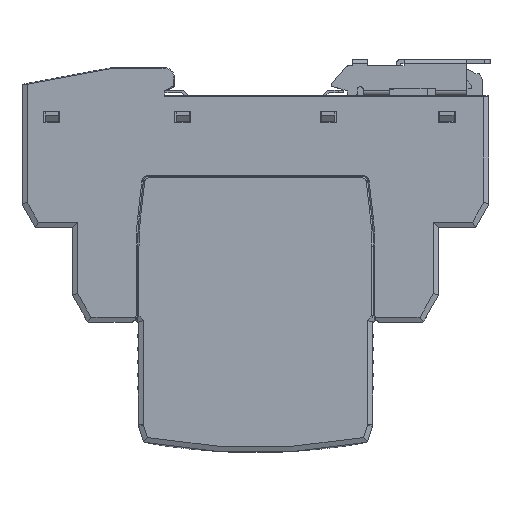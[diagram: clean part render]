
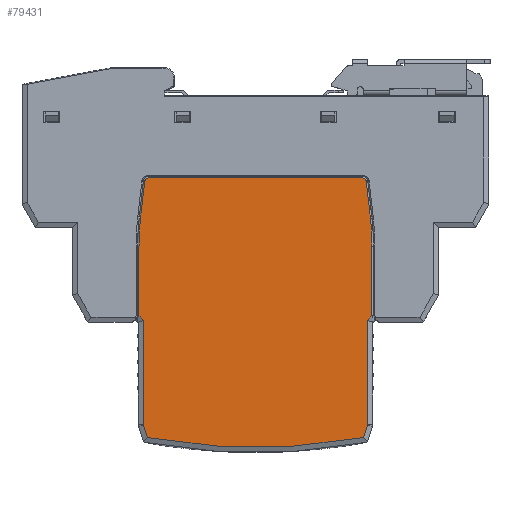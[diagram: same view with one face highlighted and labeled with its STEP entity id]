
A CAD part, top view. The second image highlights one B-rep face of the part: STEP entity #79431.
In plain terms, the highlighted planar face has unit normal (0, 0, 1).
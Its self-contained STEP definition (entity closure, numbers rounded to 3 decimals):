
#1640=CIRCLE('',#83899,0.5);
#1760=CIRCLE('',#84139,0.7);
#1764=CIRCLE('',#84145,0.7);
#1770=CIRCLE('',#84158,49.65);
#1772=CIRCLE('',#84165,0.5);
#1787=CIRCLE('',#84209,114.492);
#1788=CIRCLE('',#84211,49.65);
#6225=ORIENTED_EDGE('',*,*,#29698,.F.);
#6226=ORIENTED_EDGE('',*,*,#29695,.T.);
#6227=ORIENTED_EDGE('',*,*,#30105,.F.);
#6228=ORIENTED_EDGE('',*,*,#30106,.F.);
#6229=ORIENTED_EDGE('',*,*,#30107,.F.);
#6230=ORIENTED_EDGE('',*,*,#30108,.T.);
#6231=ORIENTED_EDGE('',*,*,#30027,.T.);
#6232=ORIENTED_EDGE('',*,*,#30030,.T.);
#6233=ORIENTED_EDGE('',*,*,#30033,.F.);
#6234=ORIENTED_EDGE('',*,*,#30036,.T.);
#6235=ORIENTED_EDGE('',*,*,#30039,.T.);
#6236=ORIENTED_EDGE('',*,*,#30051,.T.);
#6237=ORIENTED_EDGE('',*,*,#30053,.F.);
#6238=ORIENTED_EDGE('',*,*,#30055,.F.);
#6239=ORIENTED_EDGE('',*,*,#30058,.F.);
#6240=ORIENTED_EDGE('',*,*,#30060,.T.);
#6241=ORIENTED_EDGE('',*,*,#29807,.F.);
#6242=ORIENTED_EDGE('',*,*,#30104,.T.);
#29695=EDGE_CURVE('',#41826,#41827,#1640,.T.);
#29698=EDGE_CURVE('',#41826,#41828,#50096,.T.);
#29807=EDGE_CURVE('',#41904,#41905,#50145,.T.);
#30027=EDGE_CURVE('',#42055,#42054,#50271,.T.);
#30030=EDGE_CURVE('',#42054,#42056,#1760,.T.);
#30033=EDGE_CURVE('',#42058,#42056,#50273,.T.);
#30036=EDGE_CURVE('',#42058,#42060,#1764,.T.);
#30039=EDGE_CURVE('',#42060,#42062,#50275,.T.);
#30051=EDGE_CURVE('',#42062,#42067,#1770,.T.);
#30053=EDGE_CURVE('',#42068,#42067,#50282,.T.);
#30055=EDGE_CURVE('',#42069,#42068,#50284,.T.);
#30058=EDGE_CURVE('',#42071,#42069,#50287,.T.);
#30060=EDGE_CURVE('',#42071,#41905,#1772,.T.);
#30104=EDGE_CURVE('',#41904,#41828,#1787,.T.);
#30105=EDGE_CURVE('',#42085,#41827,#50315,.T.);
#30106=EDGE_CURVE('',#42086,#42085,#50316,.T.);
#30107=EDGE_CURVE('',#42087,#42086,#50317,.T.);
#30108=EDGE_CURVE('',#42087,#42055,#1788,.T.);
#41826=VERTEX_POINT('',#112870);
#41827=VERTEX_POINT('',#112871);
#41828=VERTEX_POINT('',#112876);
#41904=VERTEX_POINT('',#113328);
#41905=VERTEX_POINT('',#113330);
#42054=VERTEX_POINT('',#113773);
#42055=VERTEX_POINT('',#113775);
#42056=VERTEX_POINT('',#113779);
#42058=VERTEX_POINT('',#113785);
#42060=VERTEX_POINT('',#113791);
#42062=VERTEX_POINT('',#113797);
#42067=VERTEX_POINT('',#113823);
#42068=VERTEX_POINT('',#113827);
#42069=VERTEX_POINT('',#113831);
#42071=VERTEX_POINT('',#113837);
#42085=VERTEX_POINT('',#113928);
#42086=VERTEX_POINT('',#113930);
#42087=VERTEX_POINT('',#113932);
#50096=LINE('',#112875,#58948);
#50145=LINE('',#113329,#58997);
#50271=LINE('',#113774,#59123);
#50273=LINE('',#113786,#59125);
#50275=LINE('',#113798,#59127);
#50282=LINE('',#113828,#59134);
#50284=LINE('',#113832,#59136);
#50287=LINE('',#113838,#59139);
#50315=LINE('',#113927,#59167);
#50316=LINE('',#113929,#59168);
#50317=LINE('',#113931,#59169);
#58948=VECTOR('',#90982,1000.);
#58997=VECTOR('',#91171,1000.);
#59123=VECTOR('',#91627,1000.);
#59125=VECTOR('',#91641,1000.);
#59127=VECTOR('',#91655,1000.);
#59134=VECTOR('',#91688,1000.);
#59136=VECTOR('',#91692,1000.);
#59139=VECTOR('',#91697,1000.);
#59167=VECTOR('',#91821,1000.);
#59168=VECTOR('',#91822,1000.);
#59169=VECTOR('',#91823,1000.);
#67788=EDGE_LOOP('',(#6225,#6226,#6227,#6228,#6229,#6230,#6231,#6232,#6233,
#6234,#6235,#6236,#6237,#6238,#6239,#6240,#6241,#6242));
#72172=FACE_BOUND('',#67788,.T.);
#76389=PLANE('',#84210);
#79431=ADVANCED_FACE('',(#72172),#76389,.T.);
#83899=AXIS2_PLACEMENT_3D('',#112869,#90976,#90977);
#84139=AXIS2_PLACEMENT_3D('',#113780,#91634,#91635);
#84145=AXIS2_PLACEMENT_3D('',#113792,#91648,#91649);
#84158=AXIS2_PLACEMENT_3D('',#113824,#91682,#91683);
#84165=AXIS2_PLACEMENT_3D('',#113841,#91702,#91703);
#84209=AXIS2_PLACEMENT_3D('',#113925,#91817,#91818);
#84210=AXIS2_PLACEMENT_3D('',#113926,#91819,#91820);
#84211=AXIS2_PLACEMENT_3D('',#113933,#91824,#91825);
#90976=DIRECTION('',(0.,0.,1.));
#90977=DIRECTION('',(0.954,-0.301,0.));
#90982=DIRECTION('',(-0.301,-0.954,0.));
#91171=DIRECTION('',(-0.301,0.954,0.));
#91627=DIRECTION('',(-0.113,0.994,0.));
#91634=DIRECTION('',(0.,0.,1.));
#91635=DIRECTION('',(0.994,0.113,0.));
#91641=DIRECTION('',(1.,0.,0.));
#91648=DIRECTION('',(0.,0.,1.));
#91649=DIRECTION('',(0.,1.,0.));
#91655=DIRECTION('',(-0.113,-0.994,0.));
#91682=DIRECTION('',(0.,0.,1.));
#91683=DIRECTION('',(-0.994,0.113,0.));
#91688=DIRECTION('',(0.,1.,0.));
#91692=DIRECTION('',(-0.707,0.707,0.));
#91697=DIRECTION('',(0.,1.,0.));
#91702=DIRECTION('',(0.,0.,1.));
#91703=DIRECTION('',(-1.,0.,0.));
#91817=DIRECTION('',(0.,0.,1.));
#91818=DIRECTION('',(-0.181,-0.983,0.));
#91819=DIRECTION('',(0.,0.,1.));
#91820=DIRECTION('',(-1.,0.,0.));
#91821=DIRECTION('',(0.,-1.,0.));
#91822=DIRECTION('',(-0.707,-0.707,0.));
#91823=DIRECTION('',(0.,-1.,0.));
#91824=DIRECTION('',(0.,0.,1.));
#91825=DIRECTION('',(1.,0.,0.));
#112869=CARTESIAN_POINT('',(21.,-52.552,6.2));
#112870=CARTESIAN_POINT('',(21.477,-52.702,6.2));
#112871=CARTESIAN_POINT('',(21.5,-52.552,6.2));
#112875=CARTESIAN_POINT('',(21.477,-52.702,6.2));
#112876=CARTESIAN_POINT('',(20.717,-55.11,6.2));
#113328=CARTESIAN_POINT('',(-20.717,-55.11,6.2));
#113329=CARTESIAN_POINT('',(-20.717,-55.11,6.2));
#113330=CARTESIAN_POINT('',(-21.477,-52.702,6.2));
#113773=CARTESIAN_POINT('',(21.255,-5.921,6.2));
#113774=CARTESIAN_POINT('',(22.034,-12.793,6.2));
#113775=CARTESIAN_POINT('',(22.034,-12.793,6.2));
#113779=CARTESIAN_POINT('',(20.56,-5.3,6.2));
#113780=CARTESIAN_POINT('',(20.56,-6.,6.2));
#113785=CARTESIAN_POINT('',(-20.56,-5.3,6.2));
#113786=CARTESIAN_POINT('',(-20.56,-5.3,6.2));
#113791=CARTESIAN_POINT('',(-21.255,-5.921,6.2));
#113792=CARTESIAN_POINT('',(-20.56,-6.,6.2));
#113797=CARTESIAN_POINT('',(-22.034,-12.793,6.2));
#113798=CARTESIAN_POINT('',(-21.255,-5.921,6.2));
#113823=CARTESIAN_POINT('',(-22.35,-18.384,6.2));
#113824=CARTESIAN_POINT('',(27.3,-18.384,6.2));
#113827=CARTESIAN_POINT('',(-22.35,-31.741,6.2));
#113828=CARTESIAN_POINT('',(-22.35,-31.741,6.2));
#113831=CARTESIAN_POINT('',(-21.5,-32.591,6.2));
#113832=CARTESIAN_POINT('',(-21.5,-32.591,6.2));
#113837=CARTESIAN_POINT('',(-21.5,-52.552,6.2));
#113838=CARTESIAN_POINT('',(-21.5,-52.552,6.2));
#113841=CARTESIAN_POINT('',(-21.,-52.552,6.2));
#113925=CARTESIAN_POINT('',(0.,57.492,6.2));
#113926=CARTESIAN_POINT('',(17.55,13.9,6.2));
#113927=CARTESIAN_POINT('',(21.5,-32.591,6.2));
#113928=CARTESIAN_POINT('',(21.5,-32.591,6.2));
#113929=CARTESIAN_POINT('',(22.35,-31.741,6.2));
#113930=CARTESIAN_POINT('',(22.35,-31.741,6.2));
#113931=CARTESIAN_POINT('',(22.35,-18.384,6.2));
#113932=CARTESIAN_POINT('',(22.35,-18.384,6.2));
#113933=CARTESIAN_POINT('',(-27.3,-18.384,6.2));
